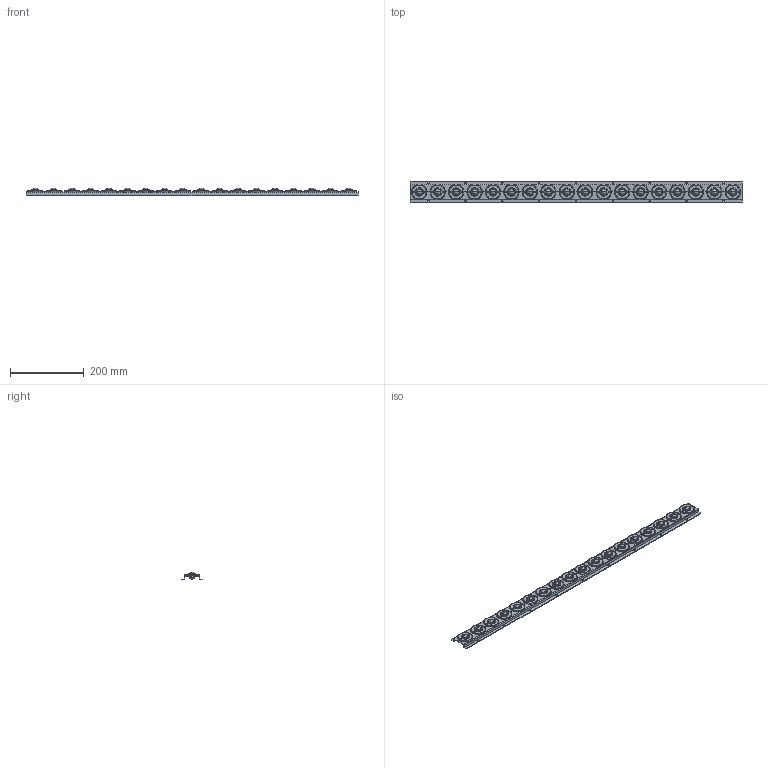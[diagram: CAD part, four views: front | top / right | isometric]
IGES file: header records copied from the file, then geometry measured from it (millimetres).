
Global section: file name: E:\UnigraphicsGraphicData\MISUMI_PRESS-PARTS\IGES\3d_goro-18_03809_r00.igs; native system: NX V5.0; preprocessor: UGS NX IGES V5.0; author: MISUMI; date: 20110105.160724; units: millimetre
Bounding box: 900 x 59 x 21 mm (x, y, z)
Surface area: 157258.2 mm2 (no closed solid volume)
Topology: 0 solids, 0 shells, 456 faces, 3668 edges, 3596 vertices
Faces by surface type: bspline 456
